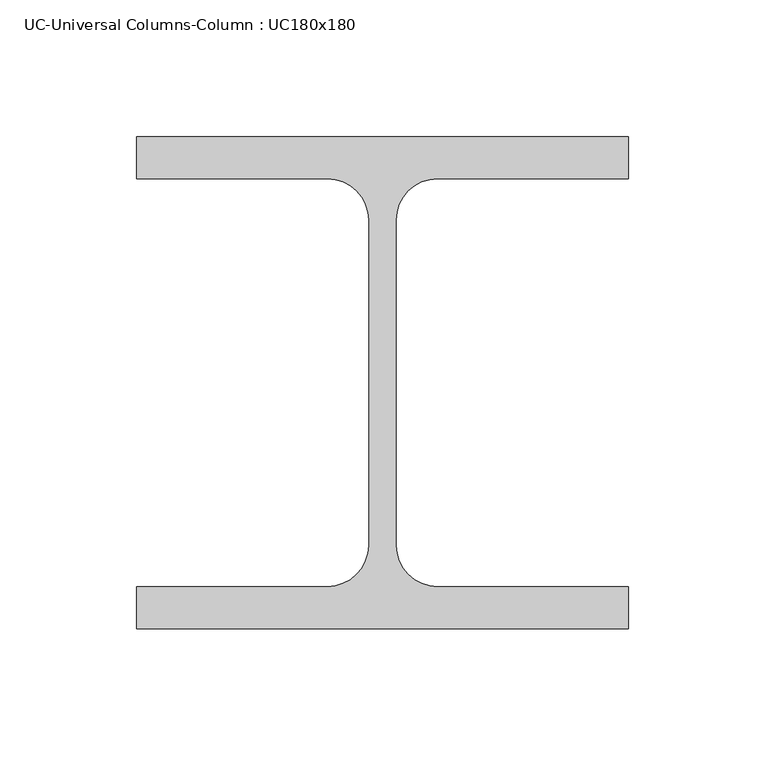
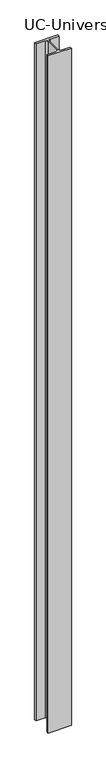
"""IFC4 building model written with IfcOpenShell, lengths in millimetres: column geometry, UC-Universal Columns-Column : UC180x180."""

from ifc_helpers import new_model, si_unit, point, frame, frame_2d, origin, place, context, project, spatial, polyline, circle_curve, trimmed, segment, composite_curve, outline, extrude, source, transform, mapped, element, save


def uc_universal_columns_column_uc180x180_37066f97(model_context):
    return source(origin(), model_context, "Body", "SweptSolid", [
        extrude(outline(composite_curve([segment(polyline([(90.0, -90.0), (-90.0, -90.0), (-90.0, -74.6), (-20.15, -74.6)]), True, "CONTINUOUS"), segment(trimmed(circle_curve(frame_2d((-20.15, -59.4)), 15.2), [point((-20.15, -74.6))], [point((-4.95, -59.4))], True, "CARTESIAN"), True, "CONTINUOUS"), segment(polyline([(-4.95, -59.4), (-4.95, 59.4)]), True, "CONTINUOUS"), segment(trimmed(circle_curve(frame_2d((-20.15, 59.4)), 15.2), [point((-4.95, 59.4))], [point((-20.15, 74.6))], True, "CARTESIAN"), True, "CONTINUOUS"), segment(polyline([(-20.15, 74.6), (-90.0, 74.6), (-90.0, 90.0), (90.0, 90.0), (90.0, 74.6), (20.15, 74.6)]), True, "CONTINUOUS"), segment(trimmed(circle_curve(frame_2d((20.15, 59.4)), 15.2), [point((20.15, 74.6))], [point((4.95, 59.4))], True, "CARTESIAN"), True, "CONTINUOUS"), segment(polyline([(4.95, 59.4), (4.95, -59.4)]), True, "CONTINUOUS"), segment(trimmed(circle_curve(frame_2d((20.15, -59.4)), 15.2), [point((4.95, -59.4))], [point((20.15, -74.6))], True, "CARTESIAN"), True, "CONTINUOUS"), segment(polyline([(20.15, -74.6), (90.0, -74.6), (90.0, -90.0)]), True, "CONTINUOUS")], self_intersect=False)), frame((0.0, 0.0, 18360.0), z_axis=(0.0, 0.0, 1.0), x_axis=(1.0, 0.0, 0.0)), (0.0, 0.0, 1.0), 5550.0),
    ])


if __name__ == "__main__":
    model = new_model("IFC4")
    model_context = context("Model", 3, world=origin())
    ifc_project = project(units=[si_unit("LENGTHUNIT", "METRE", prefix="MILLI")], contexts=[model_context])
    site = spatial("IfcSite", under=ifc_project)
    building = spatial("IfcBuilding", under=site)
    placement = place(None, origin())
    uc_universal_columns_column_uc180x180_shape = uc_universal_columns_column_uc180x180_37066f97(model_context)
    element("IfcColumn", 1, ObjectType="UC-Universal Columns-Column : UC180x180", at=placement, inside=building, context=model_context, shape_type="MappedRepresentation", body=[
        mapped(uc_universal_columns_column_uc180x180_shape, transform((0.0, 0.0, 0.0), x_axis=(1.0, 0.0, 0.0), y_axis=(0.0, 1.0, 0.0), z_axis=(0.0, 0.0, 1.0))),
    ])
    save(model, "model.ifc")
